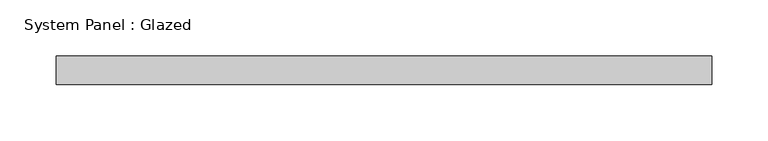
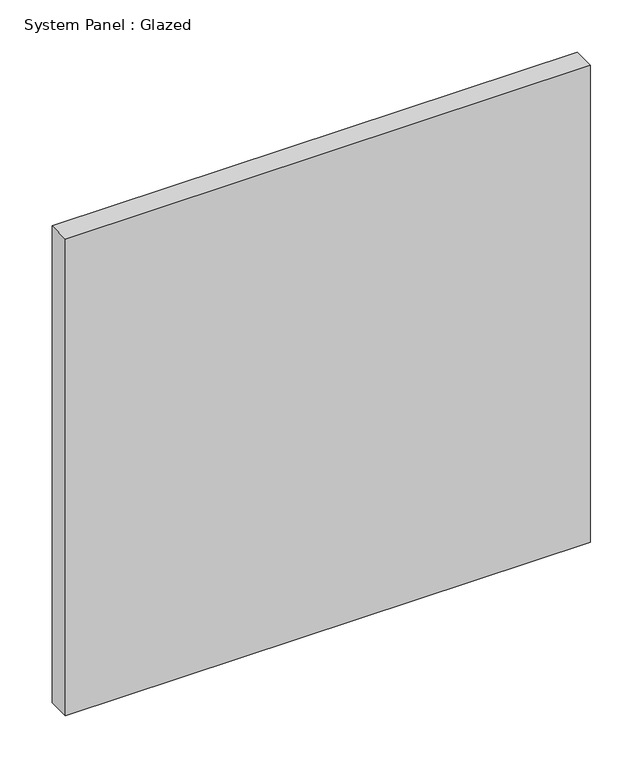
"""IFC4 building model written with IfcOpenShell, lengths in millimetres: plate geometry, System Panel : Glazed."""

from ifc_helpers import new_model, si_unit, origin, origin_with_axes, place, context, project, spatial, polyline, outline, extrude, source, transform, mapped, element, save


def system_panel_glazed_7e0f1b5c(model_context):
    return source(origin(), model_context, "Body", "SweptSolid", [
        extrude(outline(polyline([(291.0985932, -12.7), (-291.0985932, -12.7), (-291.0985932, 12.7), (291.0985932, 12.7), (291.0985932, -12.7)])), origin_with_axes(), (0.0, 0.0, 1.0), 558.8),
    ])


if __name__ == "__main__":
    model = new_model("IFC4")
    model_context = context("Model", 3, world=origin())
    ifc_project = project(units=[si_unit("LENGTHUNIT", "METRE", prefix="MILLI")], contexts=[model_context])
    site = spatial("IfcSite", under=ifc_project)
    building = spatial("IfcBuilding", under=site)
    placement = place(None, origin())
    system_panel_glazed_shape = system_panel_glazed_7e0f1b5c(model_context)
    element("IfcPlate", 1, ObjectType="System Panel : Glazed", at=placement, inside=building, context=model_context, shape_type="MappedRepresentation", body=[
        mapped(system_panel_glazed_shape, transform((0.0, 0.0, 0.0), x_axis=(1.0, 0.0, 0.0), y_axis=(0.0, 1.0, 0.0), z_axis=(0.0, 0.0, 1.0))),
    ])
    save(model, "model.ifc")
